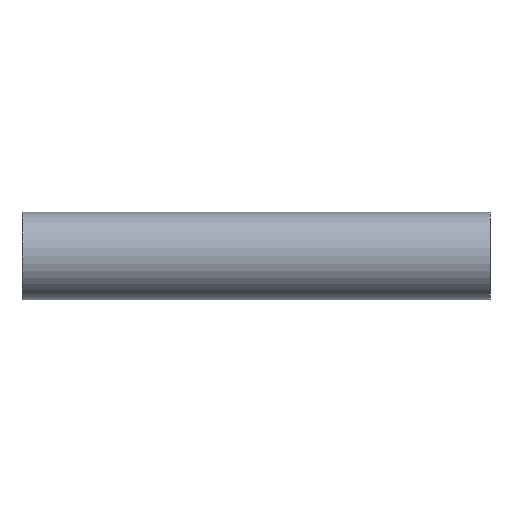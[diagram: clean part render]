
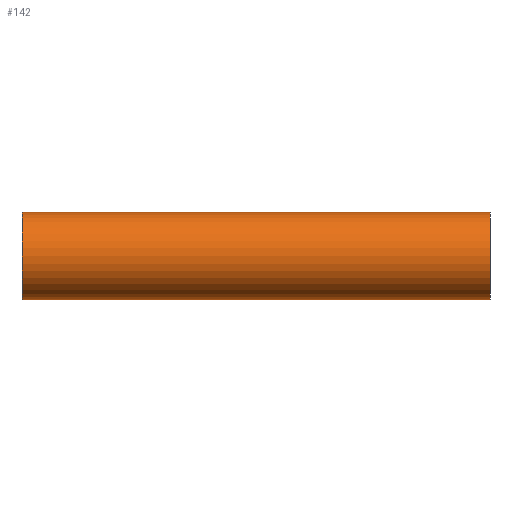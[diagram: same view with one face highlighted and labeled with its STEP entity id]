
A CAD part, front view. The second image highlights one B-rep face of the part: STEP entity #142.
In plain terms, the highlighted cylindrical face has radius 9.525 mm (diameter 19.05 mm), a partial arc.
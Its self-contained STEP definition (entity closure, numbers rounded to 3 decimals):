
#22 = AXIS2_PLACEMENT_3D ( 'NONE', #475, #256, #445 ) ;
#23 = VECTOR ( 'NONE', #61, 1000. ) ;
#37 = CARTESIAN_POINT ( 'NONE',  ( -50.8, 0., 0. ) ) ;
#61 = DIRECTION ( 'NONE',  ( 1., 0., 0. ) ) ;
#73 = VERTEX_POINT ( 'NONE', #387 ) ;
#92 = DIRECTION ( 'NONE',  ( 1., 0., 0. ) ) ;
#112 = CARTESIAN_POINT ( 'NONE',  ( 50.8, 0., 9.525 ) ) ;
#122 = ORIENTED_EDGE ( 'NONE', *, *, #358, .T. ) ;
#130 = LINE ( 'NONE', #178, #23 ) ;
#132 = ORIENTED_EDGE ( 'NONE', *, *, #234, .F. ) ;
#135 = VERTEX_POINT ( 'NONE', #215 ) ;
#142 = ADVANCED_FACE ( 'NONE', ( #311 ), #319, .T. ) ;
#146 = DIRECTION ( 'NONE',  ( 0., 0., -1. ) ) ;
#164 = VERTEX_POINT ( 'NONE', #368 ) ;
#167 = CARTESIAN_POINT ( 'NONE',  ( -50.8, 0., -9.525 ) ) ;
#174 = AXIS2_PLACEMENT_3D ( 'NONE', #323, #292, #146 ) ;
#178 = CARTESIAN_POINT ( 'NONE',  ( -50.8, 0., 9.525 ) ) ;
#185 = DIRECTION ( 'NONE',  ( 1., 0., 0. ) ) ;
#202 = CIRCLE ( 'NONE', #22, 9.525 ) ;
#209 = ORIENTED_EDGE ( 'NONE', *, *, #337, .T. ) ;
#215 = CARTESIAN_POINT ( 'NONE',  ( 50.8, 0., -9.525 ) ) ;
#234 = EDGE_CURVE ( 'NONE', #73, #266, #130, .T. ) ;
#256 = DIRECTION ( 'NONE',  ( 1., 0., 0. ) ) ;
#266 = VERTEX_POINT ( 'NONE', #112 ) ;
#274 = CIRCLE ( 'NONE', #174, 9.525 ) ;
#292 = DIRECTION ( 'NONE',  ( -1., 0., 0. ) ) ;
#300 = ORIENTED_EDGE ( 'NONE', *, *, #476, .T. ) ;
#311 = FACE_OUTER_BOUND ( 'NONE', #428, .T. ) ;
#319 = CYLINDRICAL_SURFACE ( 'NONE', #416, 9.525 ) ;
#323 = CARTESIAN_POINT ( 'NONE',  ( 50.8, 0., 0. ) ) ;
#337 = EDGE_CURVE ( 'NONE', #73, #164, #202, .T. ) ;
#350 = LINE ( 'NONE', #167, #453 ) ;
#358 = EDGE_CURVE ( 'NONE', #135, #266, #274, .T. ) ;
#368 = CARTESIAN_POINT ( 'NONE',  ( -50.8, 0., -9.525 ) ) ;
#387 = CARTESIAN_POINT ( 'NONE',  ( -50.8, 0., 9.525 ) ) ;
#416 = AXIS2_PLACEMENT_3D ( 'NONE', #37, #185, #473 ) ;
#428 = EDGE_LOOP ( 'NONE', ( #132, #209, #300, #122 ) ) ;
#445 = DIRECTION ( 'NONE',  ( 0., 0., -1. ) ) ;
#453 = VECTOR ( 'NONE', #92, 1000. ) ;
#473 = DIRECTION ( 'NONE',  ( 0., 0., -1. ) ) ;
#475 = CARTESIAN_POINT ( 'NONE',  ( -50.8, 0., 0. ) ) ;
#476 = EDGE_CURVE ( 'NONE', #164, #135, #350, .T. ) ;
